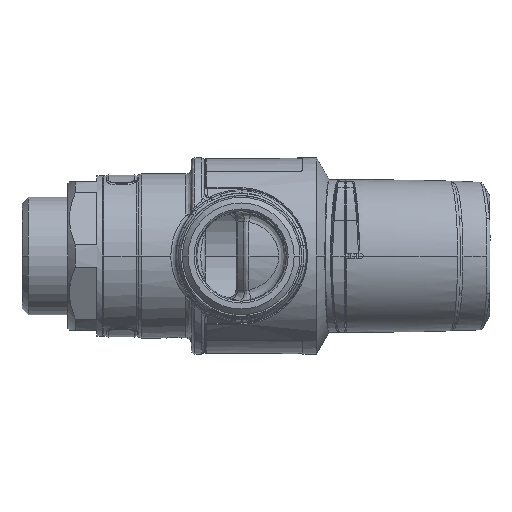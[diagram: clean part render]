
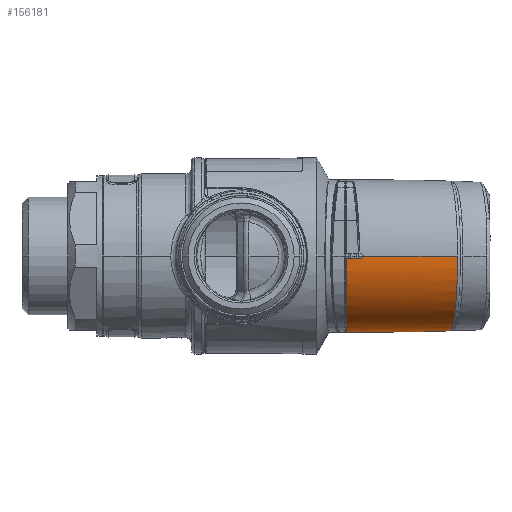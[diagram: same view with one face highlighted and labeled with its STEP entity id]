
A CAD part, left-side view. The second image highlights one B-rep face of the part: STEP entity #156181.
In plain terms, the highlighted toroidal (fillet/blend) face has major radius 1063.64 mm and minor radius 1085.24 mm.
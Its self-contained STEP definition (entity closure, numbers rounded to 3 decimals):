
#6446 = CARTESIAN_POINT ( 'NONE',  ( 23.582, 0.6, 4.5 ) ) ;
#12387 = CIRCLE ( 'NONE', #77619, 1085.244 ) ;
#14976 = ORIENTED_EDGE ( 'NONE', *, *, #46863, .F. ) ;
#20557 = CARTESIAN_POINT ( 'NONE',  ( 23.582, 0.6, 4.5 ) ) ;
#22122 = VERTEX_POINT ( 'NONE', #53463 ) ;
#25832 = EDGE_CURVE ( 'NONE', #116957, #85039, #60432, .T. ) ;
#26898 = CIRCLE ( 'NONE', #105757, 21.588 ) ;
#27410 = CARTESIAN_POINT ( 'NONE',  ( 23.587, 0.232, 5. ) ) ;
#29078 = CARTESIAN_POINT ( 'NONE',  ( 23.587, 0.1, 5. ) ) ;
#29537 = CARTESIAN_POINT ( 'NONE',  ( 2., 21.194, 29.493 ) ) ;
#30696 = EDGE_CURVE ( 'NONE', #22122, #44949, #100042, .T. ) ;
#31598 = CARTESIAN_POINT ( 'NONE',  ( 23.585, 0.361, 4.946 ) ) ;
#31828 = DIRECTION ( 'NONE',  ( 1., 0., 0. ) ) ;
#33970 = CARTESIAN_POINT ( 'NONE',  ( 21.542, 8.137, 31.565 ) ) ;
#35048 = EDGE_CURVE ( 'NONE', #85039, #103435, #145853, .T. ) ;
#36555 = CARTESIAN_POINT ( 'NONE',  ( 2., 0., 0.3 ) ) ;
#36817 = EDGE_CURVE ( 'NONE', #103435, #70361, #61944, .T. ) ;
#38305 = CARTESIAN_POINT ( 'NONE',  ( 23.591, 0.6, 1.7 ) ) ;
#42169 = EDGE_LOOP ( 'NONE', ( #53028, #14976, #113391, #153004, #126152, #165043, #134288 ) ) ;
#44949 = VERTEX_POINT ( 'NONE', #29537 ) ;
#46700 = CARTESIAN_POINT ( 'NONE',  ( 13.775, 17.743, 30.742 ) ) ;
#46848 = CARTESIAN_POINT ( 'NONE',  ( 23.581, 0.6, 4.632 ) ) ;
#46863 = EDGE_CURVE ( 'NONE', #116957, #167860, #26898, .T. ) ;
#47523 = CARTESIAN_POINT ( 'NONE',  ( 2., 21.194, 29.493 ) ) ;
#49684 = CARTESIAN_POINT ( 'NONE',  ( 2., -1063.644, -0.2 ) ) ;
#53028 = ORIENTED_EDGE ( 'NONE', *, *, #123869, .F. ) ;
#53463 = CARTESIAN_POINT ( 'NONE',  ( 23.13, 0., 31.733 ) ) ;
#60358 = CARTESIAN_POINT ( 'NONE',  ( 22.925, 3.47, 31.712 ) ) ;
#60432 = B_SPLINE_CURVE_WITH_KNOTS ( 'NONE', 3,
 ( #130442, #27410, #31598, #83529, #46848, #122678 ),
 .UNSPECIFIED., .F., .F.,
 ( 4, 2, 4 ),
 ( 0., 0., 0.001 ),
 .UNSPECIFIED. ) ;
#61944 = CIRCLE ( 'NONE', #86337, 21.6 ) ;
#62511 = DIRECTION ( 'NONE',  ( 0., -1., 0. ) ) ;
#63041 = CARTESIAN_POINT ( 'NONE',  ( 23.592, 0.6, 0.3 ) ) ;
#69614 = CARTESIAN_POINT ( 'NONE',  ( 2., 0., 5. ) ) ;
#70361 = VERTEX_POINT ( 'NONE', #77420 ) ;
#71463 = CARTESIAN_POINT ( 'NONE',  ( 23.131, 1.399, 31.734 ) ) ;
#72298 = CARTESIAN_POINT ( 'NONE',  ( 22.242, 6.189, 31.639 ) ) ;
#75267 = CARTESIAN_POINT ( 'NONE',  ( -1061.644, 0., -0.2 ) ) ;
#77420 = CARTESIAN_POINT ( 'NONE',  ( 2., 21.6, 0.3 ) ) ;
#77619 = AXIS2_PLACEMENT_3D ( 'NONE', #49684, #128890, #91428 ) ;
#79299 = CARTESIAN_POINT ( 'NONE',  ( 23.592, 0.6, 0.3 ) ) ;
#83529 = CARTESIAN_POINT ( 'NONE',  ( 23.582, 0.546, 4.762 ) ) ;
#84591 = DIRECTION ( 'NONE',  ( 0., 0., 1. ) ) ;
#85039 = VERTEX_POINT ( 'NONE', #6446 ) ;
#85051 = CARTESIAN_POINT ( 'NONE',  ( 3.393, 21.19, 29.641 ) ) ;
#86244 = AXIS2_PLACEMENT_3D ( 'NONE', #75267, #62511, #101656 ) ;
#86337 = AXIS2_PLACEMENT_3D ( 'NONE', #36555, #150736, #152416 ) ;
#86705 = CARTESIAN_POINT ( 'NONE',  ( 17.027, 15.074, 31.086 ) ) ;
#89672 = TOROIDAL_SURFACE ( 'NONE', #152171, -1063.644, 1085.244 ) ;
#91428 = DIRECTION ( 'NONE',  ( 0., -1., 0. ) ) ;
#97026 = CARTESIAN_POINT ( 'NONE',  ( 10.135, 19.691, 30.356 ) ) ;
#99865 = EDGE_CURVE ( 'NONE', #44949, #70361, #12387, .T. ) ;
#100042 = B_SPLINE_CURVE_WITH_KNOTS ( 'NONE', 3,
 ( #152334, #138672, #71463, #60358, #72298, #33970, #137837, #124232, #86705, #46700, #97026, #100334, #85051, #47523 ),
 .UNSPECIFIED., .F., .F.,
 ( 4, 1, 1, 1, 1, 1, 1, 1, 1, 1, 1, 4 ),
 ( 0.5, 0.5, 0.563, 0.594, 0.625, 0.656, 0.688, 0.75, 0.812, 0.875, 0.938, 1. ),
 .UNSPECIFIED. ) ;
#100334 = CARTESIAN_POINT ( 'NONE',  ( 6.124, 20.914, 29.93 ) ) ;
#101656 = DIRECTION ( 'NONE',  ( 0., 0., -1. ) ) ;
#103435 = VERTEX_POINT ( 'NONE', #79299 ) ;
#105757 = AXIS2_PLACEMENT_3D ( 'NONE', #69614, #147990, #135178 ) ;
#113391 = ORIENTED_EDGE ( 'NONE', *, *, #25832, .T. ) ;
#116957 = VERTEX_POINT ( 'NONE', #29078 ) ;
#122678 = CARTESIAN_POINT ( 'NONE',  ( 23.582, 0.6, 4.5 ) ) ;
#123869 = EDGE_CURVE ( 'NONE', #167860, #22122, #159761, .T. ) ;
#124232 = CARTESIAN_POINT ( 'NONE',  ( 19.212, 12.415, 31.318 ) ) ;
#126152 = ORIENTED_EDGE ( 'NONE', *, *, #36817, .T. ) ;
#128890 = DIRECTION ( 'NONE',  ( -1., 0., 0. ) ) ;
#130442 = CARTESIAN_POINT ( 'NONE',  ( 23.587, 0.1, 5. ) ) ;
#134288 = ORIENTED_EDGE ( 'NONE', *, *, #30696, .F. ) ;
#135178 = DIRECTION ( 'NONE',  ( 1., 0., 0. ) ) ;
#137837 = CARTESIAN_POINT ( 'NONE',  ( 20.656, 10.011, 31.471 ) ) ;
#138672 = CARTESIAN_POINT ( 'NONE',  ( 23.13, 0.005, 31.733 ) ) ;
#145853 = B_SPLINE_CURVE_WITH_KNOTS ( 'NONE', 3,
 ( #20557, #151653, #38305, #63041 ),
 .UNSPECIFIED., .F., .F.,
 ( 4, 4 ),
 ( 0., 0.004 ),
 .UNSPECIFIED. ) ;
#147990 = DIRECTION ( 'NONE',  ( 0., 0., -1. ) ) ;
#150736 = DIRECTION ( 'NONE',  ( 0., 0., 1. ) ) ;
#151653 = CARTESIAN_POINT ( 'NONE',  ( 23.588, 0.6, 3.1 ) ) ;
#152171 = AXIS2_PLACEMENT_3D ( 'NONE', #162976, #84591, #31828 ) ;
#152334 = CARTESIAN_POINT ( 'NONE',  ( 23.13, 0., 31.733 ) ) ;
#152416 = DIRECTION ( 'NONE',  ( 1., 0., 0. ) ) ;
#153004 = ORIENTED_EDGE ( 'NONE', *, *, #35048, .T. ) ;
#156181 = ADVANCED_FACE ( 'NONE', ( #162131 ), #89672, .T. ) ;
#159761 = CIRCLE ( 'NONE', #86244, 1085.244 ) ;
#162131 = FACE_OUTER_BOUND ( 'NONE', #42169, .T. ) ;
#162976 = CARTESIAN_POINT ( 'NONE',  ( 2., 0., -0.2 ) ) ;
#162990 = CARTESIAN_POINT ( 'NONE',  ( 23.588, 0., 5. ) ) ;
#165043 = ORIENTED_EDGE ( 'NONE', *, *, #99865, .F. ) ;
#167860 = VERTEX_POINT ( 'NONE', #162990 ) ;
